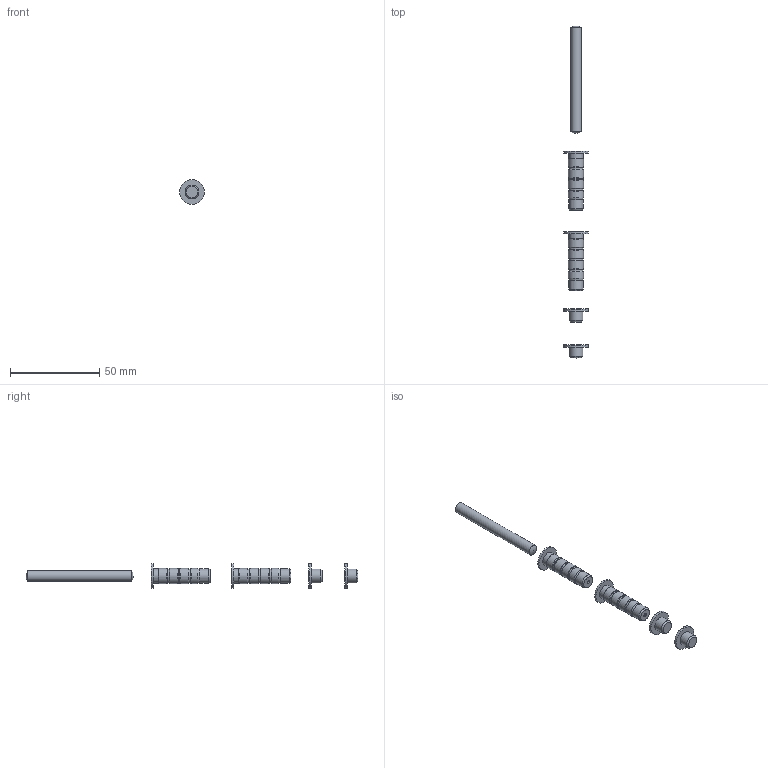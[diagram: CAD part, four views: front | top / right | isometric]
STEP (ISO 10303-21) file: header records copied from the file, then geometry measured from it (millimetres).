
FILE_DESCRIPTION( ( 'STEP AP203' ), '1' );
FILE_NAME( 'C:/Temp/Ganter_Step_05_03_2020/data/3_3/gn2290/Bolt set GN 2290-1-GR.stp', '2020-03-12T12:08:04', ( 'License CC BY-ND 4.0' ), ( 'CADENAS' ), ' ', 'PARTsolutions', ' ' );
FILE_SCHEMA( ( 'CONFIG_CONTROL_DESIGN' ) );
Length unit declared in the file: millimetre
Products named in the file (4): Bolt set GN 2290-1-GR; _Bolt set GN 2290-1-GR-1; _Bolt set GN 2290-1-GR-2; _Bolt set GN 2290-1-GR-3
Assembly tree (5 placements, depth 2):
  Bolt set GN 2290-1-GR
    _Bolt set GN 2290-1-GR-1
    _Bolt set GN 2290-1-GR-2  x2
    _Bolt set GN 2290-1-GR-3  x2
Bounding box: 13.9 x 185.5 x 13.9 mm (x, y, z)
Volume: 4528.7 mm3; surface area: 5773.2 mm2
Topology: 5 solids, 5 shells, 67 faces, 121 edges, 68 vertices
Faces by surface type: cylinder 29, cone 20, plane 14, sphere 2, torus 2
Full cylindrical faces by diameter (mm): 2 x2, 6 x1, 6.15 x2, 7.8 x2, 8 x10, 8.5 x8, 13.9 x4
Entity records: 849 total; most frequent: DIRECTION 148, CARTESIAN_POINT 109, AXIS2_PLACEMENT_3D 74, EDGE_LOOP 66, ORIENTED_EDGE 66, FACE_OUTER_BOUND 51, ADVANCED_FACE 35, VERTEX_POINT 35
